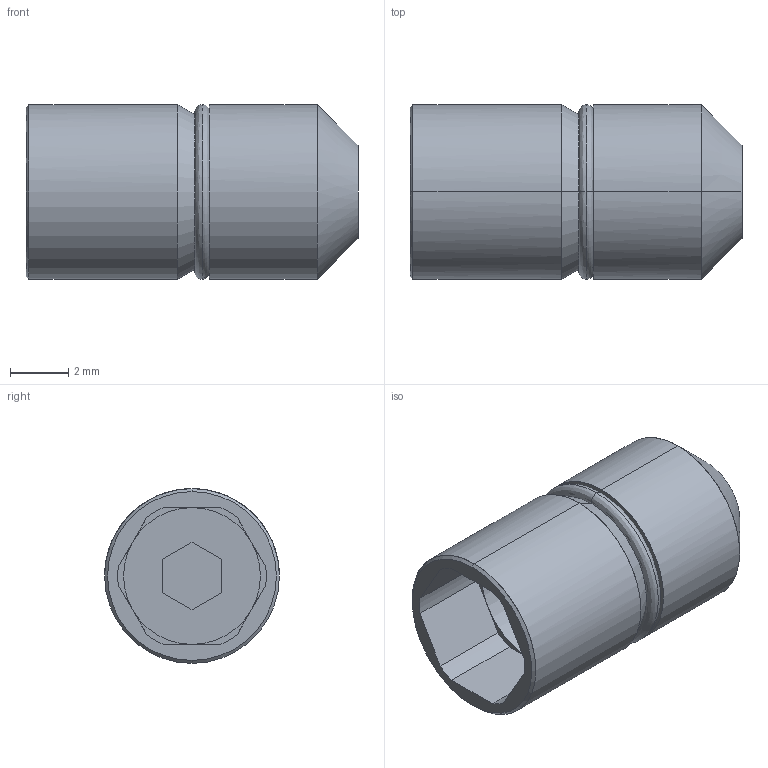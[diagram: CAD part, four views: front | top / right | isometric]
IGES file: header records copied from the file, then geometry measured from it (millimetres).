
Start section: START RECORD GO HERE.
Global section: file name: TRI-6C.igs; native system: DASSAULT SYSTEMES CATIA V5 R20 - www.3ds.com; preprocessor: CATIA Version 5 Release 20 ; author: Utente; organization: NB04-ASUS; date: 20210222.201338; units: millimetre
Bounding box: 11.4 x 6 x 6 mm (x, y, z)
Surface area: 366 mm2 (no closed solid volume)
Topology: 0 solids, 0 shells, 45 faces, 240 edges, 240 vertices
Faces by surface type: plane 23, revolution 22
